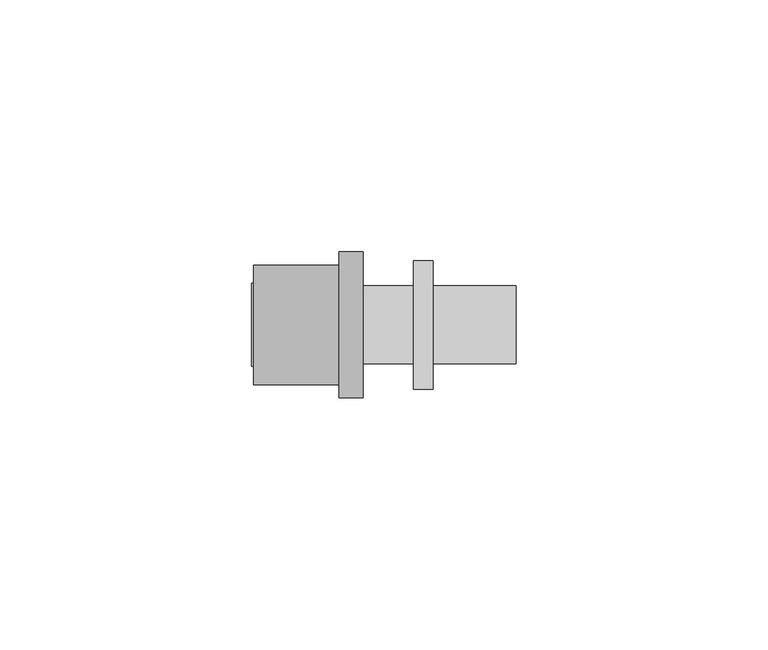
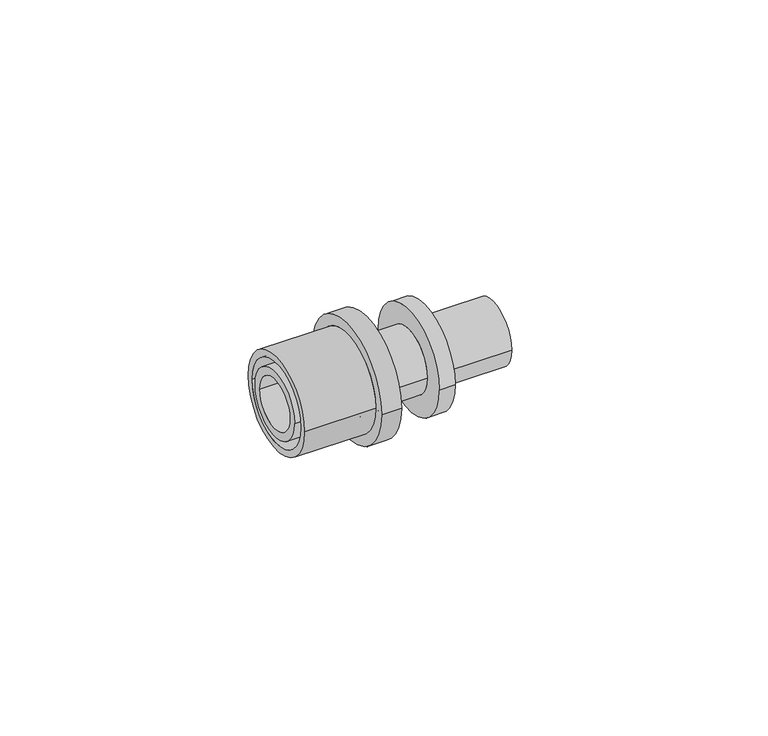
"""IFC4 building model written with IfcOpenShell, lengths in millimetres: pipe fitting geometry, FASTLOC_Adapter coupling EX+ : FSL TC EX+ AT."""

from ifc_helpers import new_model, si_unit, frame, origin, place, context, project, spatial, polyline, circle_curve, source, transform, mapped, element, save
from ifc_brep_helpers import plane_surface, cylinder_surface, revolved_surface, advanced_brep


def pipe_fitting_48a19379(model_context):
    return source(origin(), model_context, "Body", "AdvancedBrep", [
        advanced_brep(
        [(-4.3, -14.5, 0.0), (-4.3, 14.5, 0.0), (0.4, 14.5, 0.0), (0.4, -14.5, 0.0), (-21.3, -11.85, 0.0), (-21.3, 11.85, 0.0), (-4.3, 11.85, 0.0), (-4.3, -11.85, 0.0), (0.4, -10.15, 0.0), (0.4, 10.15, 0.0), (-21.3, 10.15, 0.0), (-21.3, -10.15, 0.0)],
        [
            (0, 1, circle_curve(frame((-4.3, 0.0, 0.0), z_axis=(1.0, 0.0, 0.0), x_axis=(0.0, 1.0, 0.0)), 14.5)),
            (1, 2),
            (2, 3, circle_curve(frame((0.4, 0.0, 0.0), z_axis=(-1.0, 0.0, 0.0), x_axis=(0.0, 1.0, 0.0)), 14.5)),
            (3, 0),
            (4, 5, circle_curve(frame((-21.3, 0.0, 0.0), z_axis=(1.0, 0.0, 0.0), x_axis=(0.0, 1.0, 0.0)), 11.85)),
            (5, 6),
            (6, 7, circle_curve(frame((-4.3, 0.0, 0.0), z_axis=(-1.0, 0.0, 0.0), x_axis=(0.0, 1.0, 0.0)), 11.85)),
            (7, 4),
            (8, 9, circle_curve(frame((0.4, 0.0, 0.0), z_axis=(1.0, 0.0, 0.0), x_axis=(0.0, 1.0, 0.0)), 10.15)),
            (9, 10),
            (10, 11, circle_curve(frame((-21.3, 0.0, 0.0), z_axis=(-1.0, 0.0, 0.0), x_axis=(0.0, 1.0, 0.0)), 10.15)),
            (11, 8),
            (1, 0, circle_curve(frame((-4.3, 0.0, 0.0), z_axis=(1.0, 0.0, 0.0), x_axis=(0.0, -1.0, 0.0)), 14.5)),
            (3, 2, circle_curve(frame((0.4, 0.0, 0.0), z_axis=(-1.0, 0.0, 0.0), x_axis=(0.0, -1.0, 0.0)), 14.5)),
            (6, 7, circle_curve(frame((-4.3, 0.0, 0.0), z_axis=(1.0, 0.0, 0.0), x_axis=(0.0, -1.0, 0.0)), 11.85)),
            (5, 4, circle_curve(frame((-21.3, 0.0, 0.0), z_axis=(1.0, 0.0, 0.0), x_axis=(0.0, -1.0, 0.0)), 11.85)),
            (10, 11, circle_curve(frame((-21.3, 0.0, 0.0), z_axis=(1.0, 0.0, 0.0), x_axis=(0.0, -1.0, 0.0)), 10.15)),
            (9, 8, circle_curve(frame((0.4, 0.0, 0.0), z_axis=(1.0, 0.0, 0.0), x_axis=(0.0, -1.0, 0.0)), 10.15)),
        ],
        [
            cylinder_surface(frame((0.4, 0.0, 0.0), z_axis=(-1.0, 0.0, 0.0), x_axis=(0.0, 1.0, 0.0)), 14.5),
            cylinder_surface(frame((0.4, 0.0, 0.0), z_axis=(-1.0, 0.0, 0.0), x_axis=(0.0, 1.0, 0.0)), 11.85),
            revolved_surface(polyline([(-21.3, 10.15, 0.0), (0.4, 10.15, 0.0)]), (0.4, 0.0, 0.0), (-1.0, 0.0, 0.0)),
            cylinder_surface(frame((0.4, 0.0, 0.0), z_axis=(-1.0, 0.0, 0.0), x_axis=(0.0, -1.0, 0.0)), 14.5),
            plane_surface(frame((-4.3, 0.0, 0.0), z_axis=(-1.0, 0.0, 0.0), x_axis=(0.0, -1.0, 0.0))),
            cylinder_surface(frame((0.4, 0.0, 0.0), z_axis=(-1.0, 0.0, 0.0), x_axis=(0.0, -1.0, 0.0)), 11.85),
            plane_surface(frame((-21.3, 0.0, 0.0), z_axis=(-1.0, 0.0, 0.0), x_axis=(0.0, -1.0, 0.0))),
            revolved_surface(polyline([(-21.3, -10.15, 0.0), (0.4, -10.15, 0.0)]), (0.4, 0.0, 0.0), (-1.0, 0.0, 0.0)),
            plane_surface(frame((0.4, 0.0, 0.0), z_axis=(1.0, 0.0, 0.0), x_axis=(0.0, -1.0, 0.0))),
        ],
        [
            (0, [[1, 2, 3, 4]]),
            (1, [[5, 6, 7, 8]]),
            (2, [[9, 10, 11, 12]]),
            (3, [[13, -4, 14, -2]]),
            (4, [[-13, -1], [15, -7]]),
            (5, [[16, -8, -15, -6]]),
            (6, [[-16, -5], [17, -11]]),
            (7, [[18, -12, -17, -10]]),
            (8, [[-14, -3], [-18, -9]]),
        ],
    ),
        advanced_brep(
        [(0.0, 5.75, 0.0), (0.0, -5.75, 0.0), (30.8, -5.75, 0.0), (30.8, 5.75, 0.0), (10.5, 7.75, 0.0), (10.5, -7.75, 0.0), (0.0, -7.75, 0.0), (0.0, 7.75, 0.0), (14.3, 12.75, 0.0), (14.3, -12.75, 0.0), (10.5, -12.75, 0.0), (10.5, 12.75, 0.0), (30.8, 7.75, 0.0), (30.8, -7.75, 0.0), (14.3, -7.75, 0.0), (14.3, 7.75, 0.0)],
        [
            (0, 1, circle_curve(frame((0.0, 0.0, 0.0), z_axis=(-1.0, 0.0, 0.0), x_axis=(0.0, -1.0, 0.0)), 5.75)),
            (1, 2),
            (2, 3, circle_curve(frame((30.8, 0.0, 0.0), z_axis=(1.0, 0.0, 0.0), x_axis=(0.0, -1.0, 0.0)), 5.75)),
            (3, 0),
            (4, 5, circle_curve(frame((10.5, 0.0, 0.0), z_axis=(-1.0, 0.0, 0.0), x_axis=(0.0, -1.0, 0.0)), 7.75)),
            (5, 6),
            (6, 7, circle_curve(frame((0.0, 0.0, 0.0), z_axis=(1.0, 0.0, 0.0), x_axis=(0.0, -1.0, 0.0)), 7.75)),
            (7, 4),
            (8, 9, circle_curve(frame((14.3, 0.0, 0.0), z_axis=(-1.0, 0.0, 0.0), x_axis=(0.0, -1.0, 0.0)), 12.75)),
            (9, 10),
            (10, 11, circle_curve(frame((10.5, 0.0, 0.0), z_axis=(1.0, 0.0, 0.0), x_axis=(0.0, -1.0, 0.0)), 12.75)),
            (11, 8),
            (12, 13, circle_curve(frame((30.8, 0.0, 0.0), z_axis=(-1.0, 0.0, 0.0), x_axis=(0.0, -1.0, 0.0)), 7.75)),
            (13, 14),
            (14, 15, circle_curve(frame((14.3, 0.0, 0.0), z_axis=(1.0, 0.0, 0.0), x_axis=(0.0, -1.0, 0.0)), 7.75)),
            (15, 12),
            (1, 0, circle_curve(frame((0.0, 0.0, 0.0), z_axis=(-1.0, 0.0, 0.0), x_axis=(0.0, 1.0, 0.0)), 5.75)),
            (3, 2, circle_curve(frame((30.8, 0.0, 0.0), z_axis=(1.0, 0.0, 0.0), x_axis=(0.0, 1.0, 0.0)), 5.75)),
            (6, 7, circle_curve(frame((0.0, 0.0, 0.0), z_axis=(-1.0, 0.0, 0.0), x_axis=(0.0, 1.0, 0.0)), 7.75)),
            (5, 4, circle_curve(frame((10.5, 0.0, 0.0), z_axis=(-1.0, 0.0, 0.0), x_axis=(0.0, 1.0, 0.0)), 7.75)),
            (10, 11, circle_curve(frame((10.5, 0.0, 0.0), z_axis=(-1.0, 0.0, 0.0), x_axis=(0.0, 1.0, 0.0)), 12.75)),
            (9, 8, circle_curve(frame((14.3, 0.0, 0.0), z_axis=(-1.0, 0.0, 0.0), x_axis=(0.0, 1.0, 0.0)), 12.75)),
            (14, 15, circle_curve(frame((14.3, 0.0, 0.0), z_axis=(-1.0, 0.0, 0.0), x_axis=(0.0, 1.0, 0.0)), 7.75)),
            (13, 12, circle_curve(frame((30.8, 0.0, 0.0), z_axis=(-1.0, 0.0, 0.0), x_axis=(0.0, 1.0, 0.0)), 7.75)),
        ],
        [
            revolved_surface(polyline([(30.8, -5.75, 0.0), (0.0, -5.75, 0.0)]), (0.0, 0.0, 0.0), (1.0, 0.0, 0.0)),
            cylinder_surface(frame((0.0, 0.0, 0.0), z_axis=(1.0, 0.0, 0.0), x_axis=(0.0, -1.0, 0.0)), 7.75),
            cylinder_surface(frame((0.0, 0.0, 0.0), z_axis=(1.0, 0.0, 0.0), x_axis=(0.0, -1.0, 0.0)), 12.75),
            revolved_surface(polyline([(30.8, 5.75, 0.0), (0.0, 5.75, 0.0)]), (0.0, 0.0, 0.0), (1.0, 0.0, 0.0)),
            plane_surface(frame((0.0, 0.0, 0.0), z_axis=(-1.0, 0.0, 0.0), x_axis=(0.0, 1.0, 0.0))),
            cylinder_surface(frame((0.0, 0.0, 0.0), z_axis=(1.0, 0.0, 0.0), x_axis=(0.0, 1.0, 0.0)), 7.75),
            plane_surface(frame((10.5, 0.0, 0.0), z_axis=(-1.0, 0.0, 0.0), x_axis=(0.0, 1.0, 0.0))),
            cylinder_surface(frame((0.0, 0.0, 0.0), z_axis=(1.0, 0.0, 0.0), x_axis=(0.0, 1.0, 0.0)), 12.75),
            plane_surface(frame((14.3, 0.0, 0.0), z_axis=(1.0, 0.0, 0.0), x_axis=(0.0, 1.0, 0.0))),
            plane_surface(frame((30.8, 0.0, 0.0), z_axis=(1.0, 0.0, 0.0), x_axis=(0.0, 1.0, 0.0))),
        ],
        [
            (0, [[1, 2, 3, 4]]),
            (1, [[5, 6, 7, 8]]),
            (2, [[9, 10, 11, 12]]),
            (1, [[13, 14, 15, 16]]),
            (3, [[17, -4, 18, -2]]),
            (4, [[19, -7], [-17, -1]]),
            (5, [[20, -8, -19, -6]]),
            (6, [[21, -11], [-20, -5]]),
            (7, [[22, -12, -21, -10]]),
            (8, [[-22, -9], [23, -15]]),
            (5, [[24, -16, -23, -14]]),
            (9, [[-24, -13], [-18, -3]]),
        ],
    ),
        advanced_brep(
        [(-4.3, 8.25, 0.0), (-4.3, -8.25, 0.0), (-21.7, -8.25, 0.0), (-21.7, 8.25, 0.0), (-1.6, 9.3, 0.0), (-1.6, -9.3, 0.0), (-4.3, -9.3, 0.0), (-4.3, 9.3, 0.0), (0.0, 8.25, 0.0), (0.0, -8.25, 0.0), (-1.6, -8.25, 0.0), (-1.6, 8.25, 0.0), (-21.7, 6.25, 0.0), (-21.7, -6.25, 0.0), (0.0, -6.25, 0.0), (0.0, 6.25, 0.0)],
        [
            (0, 1, circle_curve(frame((-4.3, 0.0, 0.0), z_axis=(-1.0, 0.0, 0.0), x_axis=(0.0, -1.0, 0.0)), 8.25)),
            (1, 2),
            (2, 3, circle_curve(frame((-21.7, 0.0, 0.0), z_axis=(1.0, 0.0, 0.0), x_axis=(0.0, -1.0, 0.0)), 8.25)),
            (3, 0),
            (4, 5, circle_curve(frame((-1.6, 0.0, 0.0), z_axis=(-1.0, 0.0, 0.0), x_axis=(0.0, -1.0, 0.0)), 9.3)),
            (5, 6),
            (6, 7, circle_curve(frame((-4.3, 0.0, 0.0), z_axis=(1.0, 0.0, 0.0), x_axis=(0.0, -1.0, 0.0)), 9.3)),
            (7, 4),
            (8, 9, circle_curve(frame((0.0, 0.0, 0.0), z_axis=(-1.0, 0.0, 0.0), x_axis=(0.0, -1.0, 0.0)), 8.25)),
            (9, 10),
            (10, 11, circle_curve(frame((-1.6, 0.0, 0.0), z_axis=(1.0, 0.0, 0.0), x_axis=(0.0, -1.0, 0.0)), 8.25)),
            (11, 8),
            (12, 13, circle_curve(frame((-21.7, 0.0, 0.0), z_axis=(-1.0, 0.0, 0.0), x_axis=(0.0, -1.0, 0.0)), 6.25)),
            (13, 14),
            (14, 15, circle_curve(frame((0.0, 0.0, 0.0), z_axis=(1.0, 0.0, 0.0), x_axis=(0.0, -1.0, 0.0)), 6.25)),
            (15, 12),
            (2, 3, circle_curve(frame((-21.7, 0.0, 0.0), z_axis=(-1.0, 0.0, 0.0), x_axis=(0.0, 1.0, 0.0)), 8.25)),
            (12, 13, circle_curve(frame((-21.7, 0.0, 0.0), z_axis=(1.0, 0.0, 0.0), x_axis=(0.0, 1.0, 0.0)), 6.25)),
            (1, 0, circle_curve(frame((-4.3, 0.0, 0.0), z_axis=(-1.0, 0.0, 0.0), x_axis=(0.0, 1.0, 0.0)), 8.25)),
            (6, 7, circle_curve(frame((-4.3, 0.0, 0.0), z_axis=(-1.0, 0.0, 0.0), x_axis=(0.0, 1.0, 0.0)), 9.3)),
            (5, 4, circle_curve(frame((-1.6, 0.0, 0.0), z_axis=(-1.0, 0.0, 0.0), x_axis=(0.0, 1.0, 0.0)), 9.3)),
            (10, 11, circle_curve(frame((-1.6, 0.0, 0.0), z_axis=(-1.0, 0.0, 0.0), x_axis=(0.0, 1.0, 0.0)), 8.25)),
            (9, 8, circle_curve(frame((0.0, 0.0, 0.0), z_axis=(-1.0, 0.0, 0.0), x_axis=(0.0, 1.0, 0.0)), 8.25)),
            (14, 15, circle_curve(frame((0.0, 0.0, 0.0), z_axis=(-1.0, 0.0, 0.0), x_axis=(0.0, 1.0, 0.0)), 6.25)),
        ],
        [
            cylinder_surface(frame((0.0, 0.0, 0.0), z_axis=(1.0, 0.0, 0.0), x_axis=(0.0, -1.0, 0.0)), 8.25),
            cylinder_surface(frame((0.0, 0.0, 0.0), z_axis=(1.0, 0.0, 0.0), x_axis=(0.0, -1.0, 0.0)), 9.3),
            revolved_surface(polyline([(0.0, -6.25, 0.0), (-21.7, -6.25, 0.0)]), (0.0, 0.0, 0.0), (1.0, 0.0, 0.0)),
            plane_surface(frame((-21.7, 0.0, 0.0), z_axis=(-1.0, 0.0, 0.0), x_axis=(0.0, 1.0, 0.0))),
            cylinder_surface(frame((0.0, 0.0, 0.0), z_axis=(1.0, 0.0, 0.0), x_axis=(0.0, 1.0, 0.0)), 8.25),
            plane_surface(frame((-4.3, 0.0, 0.0), z_axis=(-1.0, 0.0, 0.0), x_axis=(0.0, 1.0, 0.0))),
            cylinder_surface(frame((0.0, 0.0, 0.0), z_axis=(1.0, 0.0, 0.0), x_axis=(0.0, 1.0, 0.0)), 9.3),
            plane_surface(frame((-1.6, 0.0, 0.0), z_axis=(1.0, 0.0, 0.0), x_axis=(0.0, 1.0, 0.0))),
            plane_surface(frame((0.0, 0.0, 0.0), z_axis=(1.0, 0.0, 0.0), x_axis=(0.0, 1.0, 0.0))),
            revolved_surface(polyline([(0.0, 6.25, 0.0), (-21.7, 6.25, 0.0)]), (0.0, 0.0, 0.0), (1.0, 0.0, 0.0)),
        ],
        [
            (0, [[1, 2, 3, 4]]),
            (1, [[5, 6, 7, 8]]),
            (0, [[9, 10, 11, 12]]),
            (2, [[13, 14, 15, 16]]),
            (3, [[17, -3], [18, -13]]),
            (4, [[19, -4, -17, -2]]),
            (5, [[20, -7], [-19, -1]]),
            (6, [[21, -8, -20, -6]]),
            (7, [[-21, -5], [22, -11]]),
            (4, [[23, -12, -22, -10]]),
            (8, [[-23, -9], [24, -15]]),
            (9, [[-18, -16, -24, -14]]),
        ],
    ),
    ])


if __name__ == "__main__":
    model = new_model("IFC4")
    model_context = context("Model", 3, world=origin())
    ifc_project = project(units=[si_unit("LENGTHUNIT", "METRE", prefix="MILLI")], contexts=[model_context])
    site = spatial("IfcSite", under=ifc_project)
    building = spatial("IfcBuilding", under=site)
    placement = place(None, origin())
    pipe_fitting_shape = pipe_fitting_48a19379(model_context)
    element("IfcPipeFitting", 1, ObjectType="FASTLOC_Adapter coupling EX+ : FSL TC EX+ AT", at=placement, inside=building, context=model_context, shape_type="MappedRepresentation", body=[
        mapped(pipe_fitting_shape, transform((0.0, 0.0, 0.0), x_axis=(1.0, 0.0, 0.0), y_axis=(0.0, 1.0, 0.0), z_axis=(0.0, 0.0, 1.0))),
    ])
    save(model, "model.ifc")
